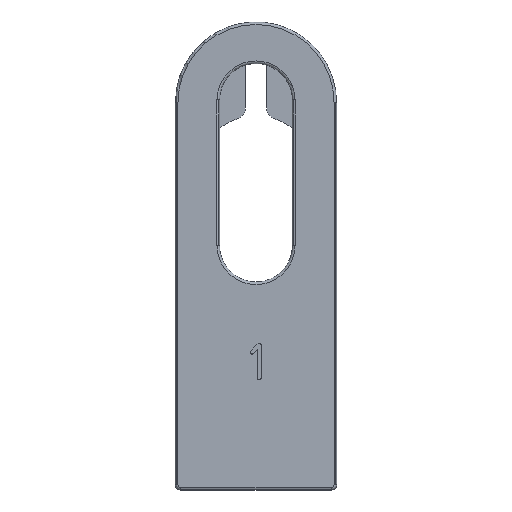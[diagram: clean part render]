
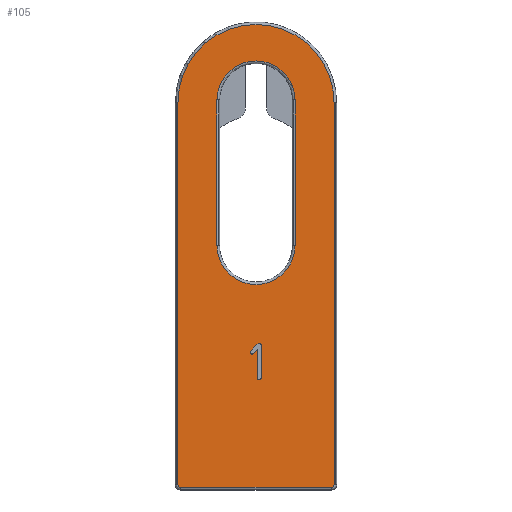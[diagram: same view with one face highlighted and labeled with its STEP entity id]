
A CAD part, top view. The second image highlights one B-rep face of the part: STEP entity #105.
In plain terms, the highlighted planar face has unit normal (0, 0, 1).
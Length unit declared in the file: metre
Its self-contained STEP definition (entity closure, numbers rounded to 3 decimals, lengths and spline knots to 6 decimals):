
#105=ADVANCED_FACE('41:865',(#200,#201,#202),#203,.T.);
#200=FACE_OUTER_BOUND('',#345,.T.);
#201=FACE_BOUND('',#346,.T.);
#202=FACE_BOUND('',#347,.T.);
#203=PLANE('',#348);
#345=EDGE_LOOP('',(#612,#613,#614,#615,#616,#617));
#346=EDGE_LOOP('',(#618,#619,#620,#621,#622,#623,#624,#625,#626,#627,#628,#629,#630,#631,#632));
#347=EDGE_LOOP('',(#633,#634,#635,#636));
#348=AXIS2_PLACEMENT_3D('',#637,#638,#639);
#612=ORIENTED_EDGE('',*,*,#1157,.F.);
#613=ORIENTED_EDGE('',*,*,#1158,.F.);
#614=ORIENTED_EDGE('',*,*,#1159,.F.);
#615=ORIENTED_EDGE('',*,*,#1160,.F.);
#616=ORIENTED_EDGE('',*,*,#1161,.F.);
#617=ORIENTED_EDGE('',*,*,#1162,.F.);
#618=ORIENTED_EDGE('',*,*,#1163,.T.);
#619=ORIENTED_EDGE('',*,*,#1164,.T.);
#620=ORIENTED_EDGE('',*,*,#1165,.T.);
#621=ORIENTED_EDGE('',*,*,#1166,.T.);
#622=ORIENTED_EDGE('',*,*,#1167,.T.);
#623=ORIENTED_EDGE('',*,*,#1168,.T.);
#624=ORIENTED_EDGE('',*,*,#1169,.T.);
#625=ORIENTED_EDGE('',*,*,#1170,.T.);
#626=ORIENTED_EDGE('',*,*,#1171,.T.);
#627=ORIENTED_EDGE('',*,*,#1172,.T.);
#628=ORIENTED_EDGE('',*,*,#1173,.T.);
#629=ORIENTED_EDGE('',*,*,#1174,.T.);
#630=ORIENTED_EDGE('',*,*,#1175,.T.);
#631=ORIENTED_EDGE('',*,*,#1176,.T.);
#632=ORIENTED_EDGE('',*,*,#1177,.T.);
#633=ORIENTED_EDGE('',*,*,#1148,.F.);
#634=ORIENTED_EDGE('',*,*,#1143,.F.);
#635=ORIENTED_EDGE('',*,*,#1154,.F.);
#636=ORIENTED_EDGE('',*,*,#1151,.F.);
#637=CARTESIAN_POINT('',(0.0,0.0,0.003));
#638=DIRECTION('',(0.0,0.0,1.0));
#639=DIRECTION('',(1.0,0.0,0.0));
#1143=EDGE_CURVE('4:548',#1410,#1412,#1413,.T.);
#1148=EDGE_CURVE('4:542',#1412,#1415,#1420,.T.);
#1151=EDGE_CURVE('4:560',#1415,#1423,#1424,.T.);
#1154=EDGE_CURVE('4:554',#1423,#1410,#1427,.T.);
#1157=EDGE_CURVE('4:494',#1430,#1431,#1432,.T.);
#1158=EDGE_CURVE('41:5067',#1433,#1430,#1434,.T.);
#1159=EDGE_CURVE('41:5037',#1435,#1433,#1436,.T.);
#1160=EDGE_CURVE('41:5061',#1437,#1435,#1438,.T.);
#1161=EDGE_CURVE('4:482',#1439,#1437,#1440,.T.);
#1162=EDGE_CURVE('4:488',#1431,#1439,#1441,.T.);
#1163=EDGE_CURVE('41:2440',#1442,#1443,#1444,.T.);
#1164=EDGE_CURVE('41:2580',#1443,#1445,#1446,.T.);
#1165=EDGE_CURVE('41:2570',#1445,#1447,#1448,.T.);
#1166=EDGE_CURVE('41:2560',#1447,#1449,#1450,.T.);
#1167=EDGE_CURVE('41:2550',#1449,#1451,#1452,.T.);
#1168=EDGE_CURVE('41:2540',#1451,#1453,#1454,.T.);
#1169=EDGE_CURVE('41:2530',#1453,#1455,#1456,.T.);
#1170=EDGE_CURVE('41:2520',#1455,#1457,#1458,.T.);
#1171=EDGE_CURVE('41:2510',#1457,#1459,#1460,.T.);
#1172=EDGE_CURVE('41:2500',#1459,#1461,#1462,.T.);
#1173=EDGE_CURVE('41:2490',#1461,#1463,#1464,.T.);
#1174=EDGE_CURVE('41:2480',#1463,#1465,#1466,.T.);
#1175=EDGE_CURVE('41:2470',#1465,#1467,#1468,.T.);
#1176=EDGE_CURVE('41:2460',#1467,#1469,#1470,.T.);
#1177=EDGE_CURVE('41:2450',#1469,#1442,#1471,.T.);
#1410=VERTEX_POINT('',#1803);
#1412=VERTEX_POINT('',#1805);
#1413=LINE('',#1806,#1807);
#1415=VERTEX_POINT('',#1809);
#1420=CIRCLE('',#1814,0.00375);
#1423=VERTEX_POINT('',#1818);
#1424=LINE('',#1819,#1820);
#1427=CIRCLE('',#1823,0.00375);
#1430=VERTEX_POINT('',#1827);
#1431=VERTEX_POINT('',#1828);
#1432=LINE('',#1829,#1830);
#1433=VERTEX_POINT('',#1831);
#1434=CIRCLE('',#1832,0.00025);
#1435=VERTEX_POINT('',#1833);
#1436=LINE('',#1834,#1835);
#1437=VERTEX_POINT('',#1836);
#1438=CIRCLE('',#1837,0.00025);
#1439=VERTEX_POINT('',#1838);
#1440=LINE('',#1839,#1840);
#1441=CIRCLE('',#1841,0.0075);
#1442=VERTEX_POINT('',#1842);
#1443=VERTEX_POINT('',#1843);
#1444=B_SPLINE_CURVE_WITH_KNOTS('',2,(#1844,#1845,#1846),.UNSPECIFIED.,.F.,.F.,(3,3),(0.0,1.0),.UNSPECIFIED.);
#1445=VERTEX_POINT('',#1847);
#1446=B_SPLINE_CURVE_WITH_KNOTS('',2,(#1848,#1849,#1850),.UNSPECIFIED.,.F.,.F.,(3,3),(0.0,1.0),.UNSPECIFIED.);
#1447=VERTEX_POINT('',#1851);
#1448=B_SPLINE_CURVE_WITH_KNOTS('',2,(#1852,#1853,#1854),.UNSPECIFIED.,.F.,.F.,(3,3),(0.0,1.0),.UNSPECIFIED.);
#1449=VERTEX_POINT('',#1855);
#1450=LINE('',#1856,#1857);
#1451=VERTEX_POINT('',#1858);
#1452=B_SPLINE_CURVE_WITH_KNOTS('',2,(#1859,#1860,#1861),.UNSPECIFIED.,.F.,.F.,(3,3),(0.0,1.0),.UNSPECIFIED.);
#1453=VERTEX_POINT('',#1862);
#1454=B_SPLINE_CURVE_WITH_KNOTS('',2,(#1863,#1864,#1865),.UNSPECIFIED.,.F.,.F.,(3,3),(0.0,1.0),.UNSPECIFIED.);
#1455=VERTEX_POINT('',#1866);
#1456=B_SPLINE_CURVE_WITH_KNOTS('',2,(#1867,#1868,#1869),.UNSPECIFIED.,.F.,.F.,(3,3),(0.0,1.0),.UNSPECIFIED.);
#1457=VERTEX_POINT('',#1870);
#1458=B_SPLINE_CURVE_WITH_KNOTS('',2,(#1871,#1872,#1873),.UNSPECIFIED.,.F.,.F.,(3,3),(0.0,1.0),.UNSPECIFIED.);
#1459=VERTEX_POINT('',#1874);
#1460=LINE('',#1875,#1876);
#1461=VERTEX_POINT('',#1877);
#1462=LINE('',#1878,#1879);
#1463=VERTEX_POINT('',#1880);
#1464=B_SPLINE_CURVE_WITH_KNOTS('',2,(#1881,#1882,#1883),.UNSPECIFIED.,.F.,.F.,(3,3),(0.0,1.0),.UNSPECIFIED.);
#1465=VERTEX_POINT('',#1884);
#1466=B_SPLINE_CURVE_WITH_KNOTS('',2,(#1885,#1886,#1887),.UNSPECIFIED.,.F.,.F.,(3,3),(0.0,1.0),.UNSPECIFIED.);
#1467=VERTEX_POINT('',#1888);
#1468=B_SPLINE_CURVE_WITH_KNOTS('',2,(#1889,#1890,#1891),.UNSPECIFIED.,.F.,.F.,(3,3),(0.0,1.0),.UNSPECIFIED.);
#1469=VERTEX_POINT('',#1892);
#1470=B_SPLINE_CURVE_WITH_KNOTS('',2,(#1893,#1894,#1895),.UNSPECIFIED.,.F.,.F.,(3,3),(0.0,1.0),.UNSPECIFIED.);
#1471=LINE('',#1896,#1897);
#1803=CARTESIAN_POINT('',(0.004,0.0375,0.003));
#1805=CARTESIAN_POINT('',(0.004,0.0235,0.003));
#1806=CARTESIAN_POINT('',(0.004,0.0135,0.003));
#1807=VECTOR('',#2280,1.0);
#1809=CARTESIAN_POINT('',(0.0115,0.0235,0.003));
#1814=AXIS2_PLACEMENT_3D('',#2293,#2294,#2295);
#1818=CARTESIAN_POINT('',(0.0115,0.0375,0.003));
#1819=CARTESIAN_POINT('',(0.0115,0.0135,0.003));
#1820=VECTOR('',#2300,1.0);
#1823=AXIS2_PLACEMENT_3D('',#2307,#2308,#2309);
#1827=CARTESIAN_POINT('',(0.00025,0.0005,0.003));
#1828=CARTESIAN_POINT('',(0.00025,0.03725,0.003));
#1829=CARTESIAN_POINT('',(0.00025,0.01125,0.003));
#1830=VECTOR('',#2314,1.0);
#1831=CARTESIAN_POINT('',(0.0005,0.00025,0.003));
#1832=AXIS2_PLACEMENT_3D('',#2315,#2316,#2317);
#1833=CARTESIAN_POINT('',(0.015,0.00025,0.003));
#1834=CARTESIAN_POINT('',(0.003875,0.00025,0.003));
#1835=VECTOR('',#2318,1.0);
#1836=CARTESIAN_POINT('',(0.01525,0.0005,0.003));
#1837=AXIS2_PLACEMENT_3D('',#2319,#2320,#2321);
#1838=CARTESIAN_POINT('',(0.01525,0.03725,0.003));
#1839=CARTESIAN_POINT('',(0.01525,0.01125,0.003));
#1840=VECTOR('',#2322,1.0);
#1841=AXIS2_PLACEMENT_3D('',#2323,#2324,#2325);
#1842=CARTESIAN_POINT('',(0.007943,0.014053,0.003));
#1843=CARTESIAN_POINT('',(0.008132,0.014092,0.003));
#1844=CARTESIAN_POINT('',(0.007943,0.014053,0.003));
#1845=CARTESIAN_POINT('',(0.008023,0.014137,0.003));
#1846=CARTESIAN_POINT('',(0.008132,0.014092,0.003));
#1847=CARTESIAN_POINT('',(0.00821,0.014027,0.003));
#1848=CARTESIAN_POINT('',(0.008132,0.014092,0.003));
#1849=CARTESIAN_POINT('',(0.008181,0.014071,0.003));
#1850=CARTESIAN_POINT('',(0.00821,0.014027,0.003));
#1851=CARTESIAN_POINT('',(0.00824,0.013931,0.003));
#1852=CARTESIAN_POINT('',(0.00821,0.014027,0.003));
#1853=CARTESIAN_POINT('',(0.00824,0.013983,0.003));
#1854=CARTESIAN_POINT('',(0.00824,0.013931,0.003));
#1855=CARTESIAN_POINT('',(0.00824,0.010781,0.003));
#1856=CARTESIAN_POINT('',(0.00824,0.013931,0.003));
#1857=VECTOR('',#2326,1.0);
#1858=CARTESIAN_POINT('',(0.008189,0.010656,0.003));
#1859=CARTESIAN_POINT('',(0.00824,0.010781,0.003));
#1860=CARTESIAN_POINT('',(0.00824,0.010707,0.003));
#1861=CARTESIAN_POINT('',(0.008189,0.010656,0.003));
#1862=CARTESIAN_POINT('',(0.008065,0.010606,0.003));
#1863=CARTESIAN_POINT('',(0.008189,0.010656,0.003));
#1864=CARTESIAN_POINT('',(0.008139,0.010606,0.003));
#1865=CARTESIAN_POINT('',(0.008065,0.010606,0.003));
#1866=CARTESIAN_POINT('',(0.007941,0.010656,0.003));
#1867=CARTESIAN_POINT('',(0.008065,0.010606,0.003));
#1868=CARTESIAN_POINT('',(0.007992,0.010606,0.003));
#1869=CARTESIAN_POINT('',(0.007941,0.010656,0.003));
#1870=CARTESIAN_POINT('',(0.00789,0.010781,0.003));
#1871=CARTESIAN_POINT('',(0.007941,0.010656,0.003));
#1872=CARTESIAN_POINT('',(0.00789,0.010707,0.003));
#1873=CARTESIAN_POINT('',(0.00789,0.010781,0.003));
#1874=CARTESIAN_POINT('',(0.00789,0.013507,0.003));
#1875=CARTESIAN_POINT('',(0.00789,0.010781,0.003));
#1876=VECTOR('',#2327,1.0);
#1877=CARTESIAN_POINT('',(0.007488,0.013108,0.003));
#1878=CARTESIAN_POINT('',(0.00789,0.013507,0.003));
#1879=VECTOR('',#2328,1.0);
#1880=CARTESIAN_POINT('',(0.007365,0.013056,0.003));
#1881=CARTESIAN_POINT('',(0.007488,0.013108,0.003));
#1882=CARTESIAN_POINT('',(0.007439,0.013056,0.003));
#1883=CARTESIAN_POINT('',(0.007365,0.013056,0.003));
#1884=CARTESIAN_POINT('',(0.007243,0.013108,0.003));
#1885=CARTESIAN_POINT('',(0.007365,0.013056,0.003));
#1886=CARTESIAN_POINT('',(0.007292,0.013056,0.003));
#1887=CARTESIAN_POINT('',(0.007243,0.013108,0.003));
#1888=CARTESIAN_POINT('',(0.00719,0.013231,0.003));
#1889=CARTESIAN_POINT('',(0.007243,0.013108,0.003));
#1890=CARTESIAN_POINT('',(0.00719,0.013157,0.003));
#1891=CARTESIAN_POINT('',(0.00719,0.013231,0.003));
#1892=CARTESIAN_POINT('',(0.007243,0.013353,0.003));
#1893=CARTESIAN_POINT('',(0.00719,0.013231,0.003));
#1894=CARTESIAN_POINT('',(0.00719,0.013304,0.003));
#1895=CARTESIAN_POINT('',(0.007243,0.013353,0.003));
#1896=CARTESIAN_POINT('',(0.007243,0.013353,0.003));
#1897=VECTOR('',#2329,1.0);
#2280=DIRECTION('',(0.,-1.0,0.0));
#2293=CARTESIAN_POINT('',(0.00775,0.0235,0.003));
#2294=DIRECTION('',(0.0,0.0,1.0));
#2295=DIRECTION('',(0.0,-1.0,0.0));
#2300=DIRECTION('',(-0.0,1.0,-0.0));
#2307=CARTESIAN_POINT('',(0.00775,0.0375,0.003));
#2308=DIRECTION('',(0.0,-0.0,1.0));
#2309=DIRECTION('',(0.0,1.0,0.0));
#2314=DIRECTION('',(-0.0,1.0,-0.0));
#2315=CARTESIAN_POINT('',(0.0005,0.0005,0.003));
#2316=DIRECTION('',(-0.0,0.0,-1.0));
#2317=DIRECTION('',(-0.707,-0.707,0.0));
#2318=DIRECTION('',(-1.0,-0.0,0.0));
#2319=CARTESIAN_POINT('',(0.015,0.0005,0.003));
#2320=DIRECTION('',(0.0,-0.0,-1.0));
#2321=DIRECTION('',(0.707,-0.707,0.0));
#2322=DIRECTION('',(-0.0,-1.0,-0.0));
#2323=CARTESIAN_POINT('',(0.00775,0.03725,0.003));
#2324=DIRECTION('',(0.0,0.0,-1.0));
#2325=DIRECTION('',(0.,1.0,0.0));
#2326=DIRECTION('',(0.0,-1.0,0.0));
#2327=DIRECTION('',(0.0,1.0,0.0));
#2328=DIRECTION('',(-0.71,-0.704,0.0));
#2329=DIRECTION('',(0.707,0.707,0.0));
